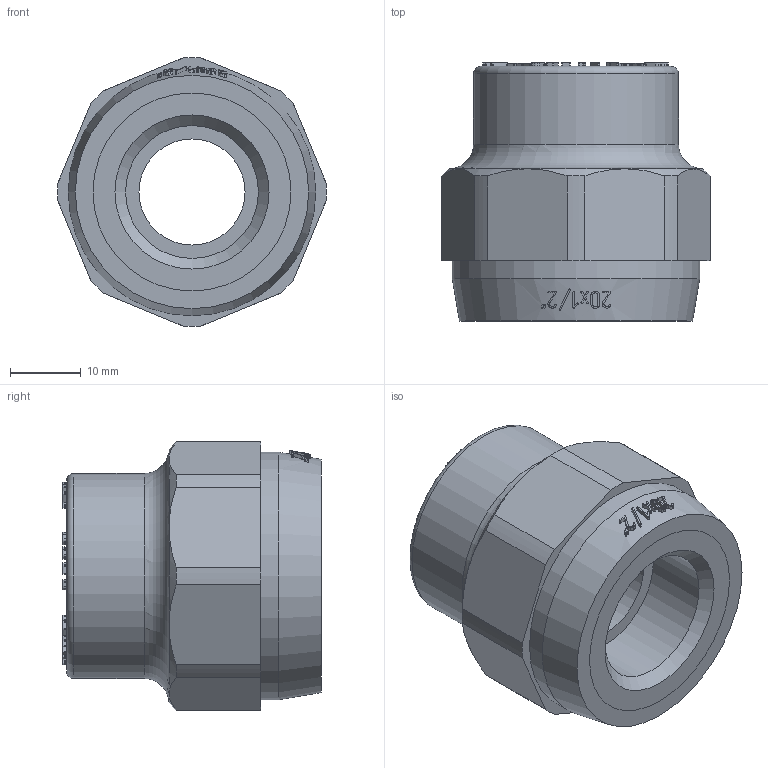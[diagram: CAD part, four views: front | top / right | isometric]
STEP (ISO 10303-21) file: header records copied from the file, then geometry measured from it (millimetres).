
FILE_DESCRIPTION(('STEP AP203'), '1');
FILE_NAME('ÂÐ.753153.008 - VTp.702.0.02004', '', ('UNSPECIFIED'), ('UNSPECIFIED'), 'C3D Converter', 'C3D Toolkit', '');
FILE_SCHEMA(('CONFIG_CONTROL_DESIGN'));
Length unit declared in the file: millimetre
Products named in the file (4): ВР.753153.008; ВР.302639.014.000; ВР.713661.001
Assembly tree (3 placements, depth 3):
  ВР.753153.008
    ВР.302639.014.000
      ВР.713661.001
      (unnamed)
Bounding box: 37.99 x 36.5 x 37.99 mm (x, y, z)
Volume: 22578.9 mm3; surface area: 14408.4 mm2
Topology: 3 solids, 3 shells, 839 faces, 2278 edges, 1515 vertices
Faces by surface type: extrusion 428, plane 325, cylinder 56, cone 22, torus 8
Full cylindrical faces by diameter (mm): 15 x1, 18.8 x1, 21.5 x2, 24 x8, 28 x10, 29 x1, 35 x1
Entity records: 29564 total; most frequent: CARTESIAN_POINT 10040, ORIENTED_EDGE 4470, DIRECTION 2694, EDGE_CURVE 2235, VECTOR 1554, VERTEX_POINT 1508, B_SPLINE_CURVE_WITH_KNOTS 1387, LINE 1126
